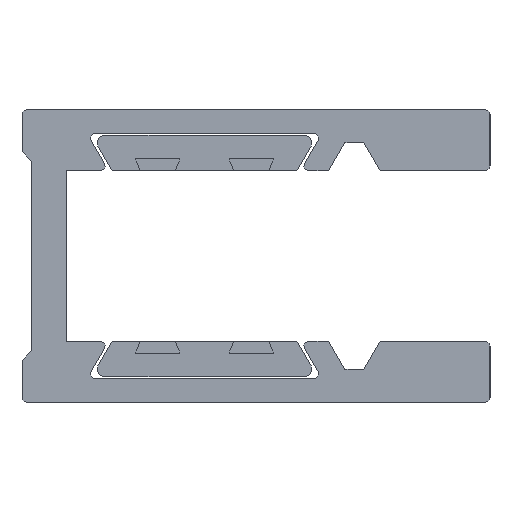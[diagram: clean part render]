
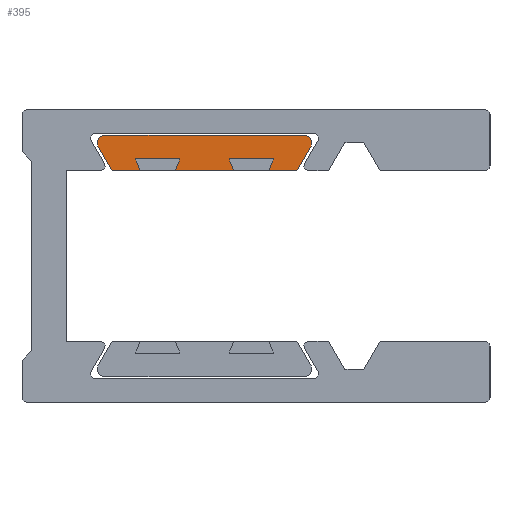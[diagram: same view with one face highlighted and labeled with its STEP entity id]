
A CAD part, left-side view. The second image highlights one B-rep face of the part: STEP entity #395.
In plain terms, the highlighted planar face has unit normal (-1, 0, 0).
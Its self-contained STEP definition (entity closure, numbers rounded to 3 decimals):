
#11 = LINE ( 'NONE', #3253, #1789 ) ;
#30 = ORIENTED_EDGE ( 'NONE', *, *, #3480, .F. ) ;
#38 = VECTOR ( 'NONE', #3076, 1000. ) ;
#107 = EDGE_CURVE ( 'NONE', #2776, #3458, #3658, .T. ) ;
#114 = AXIS2_PLACEMENT_3D ( 'NONE', #1687, #2047, #2899 ) ;
#127 = DIRECTION ( 'NONE',  ( 0., -0.371, 0.928 ) ) ;
#229 = ORIENTED_EDGE ( 'NONE', *, *, #3260, .F. ) ;
#255 = EDGE_CURVE ( 'NONE', #1691, #3326, #11, .T. ) ;
#385 = LINE ( 'NONE', #2786, #716 ) ;
#395 = ADVANCED_FACE ( 'NONE', ( #3732 ), #1978, .F. ) ;
#423 = CARTESIAN_POINT ( 'NONE',  ( -1000., 7.904, 4.85 ) ) ;
#488 = ORIENTED_EDGE ( 'NONE', *, *, #1572, .F. ) ;
#493 = DIRECTION ( 'NONE',  ( 0., 1., 0. ) ) ;
#509 = ORIENTED_EDGE ( 'NONE', *, *, #1342, .T. ) ;
#513 = VERTEX_POINT ( 'NONE', #1361 ) ;
#539 = CARTESIAN_POINT ( 'NONE',  ( -1000., 8.25, 3.65 ) ) ;
#615 = CARTESIAN_POINT ( 'NONE',  ( -1000., 9.45, 3.65 ) ) ;
#629 = CARTESIAN_POINT ( 'NONE',  ( -1000., 7.644, 4.7 ) ) ;
#648 = EDGE_CURVE ( 'NONE', #1941, #2476, #2787, .T. ) ;
#716 = VECTOR ( 'NONE', #2213, 1000. ) ;
#740 = ORIENTED_EDGE ( 'NONE', *, *, #1259, .F. ) ;
#752 = LINE ( 'NONE', #3397, #1712 ) ;
#786 = CARTESIAN_POINT ( 'NONE',  ( -1000., 8.25, 3.65 ) ) ;
#885 = CARTESIAN_POINT ( 'NONE',  ( -1000., 10.95, 3.65 ) ) ;
#898 = VECTOR ( 'NONE', #1487, 1000. ) ;
#1028 = LINE ( 'NONE', #1360, #1703 ) ;
#1048 = ORIENTED_EDGE ( 'NONE', *, *, #255, .F. ) ;
#1052 = LINE ( 'NONE', #2823, #3615 ) ;
#1104 = DIRECTION ( 'NONE',  ( 0., -1., 0. ) ) ;
#1256 = EDGE_CURVE ( 'NONE', #3326, #2558, #2811, .T. ) ;
#1259 = EDGE_CURVE ( 'NONE', #2558, #1652, #1028, .T. ) ;
#1289 = EDGE_CURVE ( 'NONE', #2476, #3268, #385, .T. ) ;
#1327 = VECTOR ( 'NONE', #3290, 1000. ) ;
#1342 = EDGE_CURVE ( 'NONE', #513, #2289, #2683, .T. ) ;
#1343 = CARTESIAN_POINT ( 'NONE',  ( -1000., 13.45, 3.65 ) ) ;
#1360 = CARTESIAN_POINT ( 'NONE',  ( -1000., 13.25, 4.15 ) ) ;
#1361 = CARTESIAN_POINT ( 'NONE',  ( -1000., 7.644, 4.7 ) ) ;
#1373 = CARTESIAN_POINT ( 'NONE',  ( -1000., 15.15, 4.15 ) ) ;
#1413 = DIRECTION ( 'NONE',  ( 0., 0., 1. ) ) ;
#1430 = LINE ( 'NONE', #2605, #2746 ) ;
#1444 = LINE ( 'NONE', #3761, #3782 ) ;
#1447 = CARTESIAN_POINT ( 'NONE',  ( -1000., 16.496, 5.15 ) ) ;
#1487 = DIRECTION ( 'NONE',  ( 0., 0.5, -0.866 ) ) ;
#1509 = VERTEX_POINT ( 'NONE', #2869 ) ;
#1543 = EDGE_CURVE ( 'NONE', #1509, #3640, #1052, .T. ) ;
#1572 = EDGE_CURVE ( 'NONE', #3640, #3458, #752, .T. ) ;
#1599 = CARTESIAN_POINT ( 'NONE',  ( -1000., 9.25, 4.15 ) ) ;
#1601 = DIRECTION ( 'NONE',  ( 0., -0.866, -0.5 ) ) ;
#1652 = VERTEX_POINT ( 'NONE', #1373 ) ;
#1687 = CARTESIAN_POINT ( 'NONE',  ( -1000., 0., 0. ) ) ;
#1691 = VERTEX_POINT ( 'NONE', #885 ) ;
#1703 = VECTOR ( 'NONE', #3669, 1000. ) ;
#1712 = VECTOR ( 'NONE', #1936, 1000. ) ;
#1765 = AXIS2_PLACEMENT_3D ( 'NONE', #2604, #1984, #1413 ) ;
#1789 = VECTOR ( 'NONE', #1796, 1000. ) ;
#1794 = EDGE_CURVE ( 'NONE', #513, #1941, #3579, .T. ) ;
#1796 = DIRECTION ( 'NONE',  ( 0., 1., 0. ) ) ;
#1825 = ORIENTED_EDGE ( 'NONE', *, *, #3644, .F. ) ;
#1936 = DIRECTION ( 'NONE',  ( 0., 0.5, 0.866 ) ) ;
#1941 = VERTEX_POINT ( 'NONE', #539 ) ;
#1947 = DIRECTION ( 'NONE',  ( -1., 0., 0. ) ) ;
#1966 = ORIENTED_EDGE ( 'NONE', *, *, #1289, .F. ) ;
#1978 = PLANE ( 'NONE',  #114 ) ;
#1984 = DIRECTION ( 'NONE',  ( -1., 0., 0. ) ) ;
#1989 = ORIENTED_EDGE ( 'NONE', *, *, #1256, .F. ) ;
#2010 = ORIENTED_EDGE ( 'NONE', *, *, #1543, .F. ) ;
#2047 = DIRECTION ( 'NONE',  ( 1., 0., 0. ) ) ;
#2096 = VECTOR ( 'NONE', #3432, 1000. ) ;
#2154 = CARTESIAN_POINT ( 'NONE',  ( -1000., 11.15, 4.15 ) ) ;
#2213 = DIRECTION ( 'NONE',  ( 0., -0.371, 0.928 ) ) ;
#2218 = CARTESIAN_POINT ( 'NONE',  ( -1000., 7.904, 5.15 ) ) ;
#2289 = VERTEX_POINT ( 'NONE', #2218 ) ;
#2331 = CARTESIAN_POINT ( 'NONE',  ( -1000., 13.45, 3.65 ) ) ;
#2387 = CARTESIAN_POINT ( 'NONE',  ( -1000., 13.25, 4.15 ) ) ;
#2440 = VERTEX_POINT ( 'NONE', #2154 ) ;
#2476 = VERTEX_POINT ( 'NONE', #615 ) ;
#2544 = ORIENTED_EDGE ( 'NONE', *, *, #1794, .F. ) ;
#2558 = VERTEX_POINT ( 'NONE', #2387 ) ;
#2604 = CARTESIAN_POINT ( 'NONE',  ( -1000., 16.496, 4.85 ) ) ;
#2605 = CARTESIAN_POINT ( 'NONE',  ( -1000., 11.15, 4.15 ) ) ;
#2651 = LINE ( 'NONE', #2953, #1327 ) ;
#2683 = CIRCLE ( 'NONE', #3181, 0.3 ) ;
#2746 = VECTOR ( 'NONE', #3487, 1000. ) ;
#2776 = VERTEX_POINT ( 'NONE', #1447 ) ;
#2786 = CARTESIAN_POINT ( 'NONE',  ( -1000., 9.45, 3.65 ) ) ;
#2787 = LINE ( 'NONE', #786, #2096 ) ;
#2811 = LINE ( 'NONE', #1343, #3000 ) ;
#2823 = CARTESIAN_POINT ( 'NONE',  ( -1000., 14.95, 3.65 ) ) ;
#2869 = CARTESIAN_POINT ( 'NONE',  ( -1000., 14.95, 3.65 ) ) ;
#2899 = DIRECTION ( 'NONE',  ( 0., 1., 0. ) ) ;
#2953 = CARTESIAN_POINT ( 'NONE',  ( -1000., 15.15, 4.15 ) ) ;
#3000 = VECTOR ( 'NONE', #127, 1000. ) ;
#3075 = ORIENTED_EDGE ( 'NONE', *, *, #3378, .F. ) ;
#3076 = DIRECTION ( 'NONE',  ( 0., 1., 0. ) ) ;
#3163 = EDGE_LOOP ( 'NONE', ( #229, #3682, #488, #2010, #30, #740, #1989, #1048, #3075, #1825, #1966, #3445, #2544, #509 ) ) ;
#3175 = CARTESIAN_POINT ( 'NONE',  ( -1000., 16.756, 4.7 ) ) ;
#3181 = AXIS2_PLACEMENT_3D ( 'NONE', #423, #1947, #1601 ) ;
#3253 = CARTESIAN_POINT ( 'NONE',  ( -1000., 10.95, 3.65 ) ) ;
#3260 = EDGE_CURVE ( 'NONE', #2776, #2289, #1444, .T. ) ;
#3268 = VERTEX_POINT ( 'NONE', #3448 ) ;
#3290 = DIRECTION ( 'NONE',  ( 0., -0.371, -0.928 ) ) ;
#3326 = VERTEX_POINT ( 'NONE', #2331 ) ;
#3378 = EDGE_CURVE ( 'NONE', #2440, #1691, #1430, .T. ) ;
#3397 = CARTESIAN_POINT ( 'NONE',  ( -1000., 16.15, 3.65 ) ) ;
#3404 = LINE ( 'NONE', #1599, #38 ) ;
#3432 = DIRECTION ( 'NONE',  ( 0., 1., 0. ) ) ;
#3445 = ORIENTED_EDGE ( 'NONE', *, *, #648, .F. ) ;
#3448 = CARTESIAN_POINT ( 'NONE',  ( -1000., 9.25, 4.15 ) ) ;
#3458 = VERTEX_POINT ( 'NONE', #3175 ) ;
#3480 = EDGE_CURVE ( 'NONE', #1652, #1509, #2651, .T. ) ;
#3487 = DIRECTION ( 'NONE',  ( 0., -0.371, -0.928 ) ) ;
#3579 = LINE ( 'NONE', #629, #898 ) ;
#3615 = VECTOR ( 'NONE', #493, 1000. ) ;
#3640 = VERTEX_POINT ( 'NONE', #3681 ) ;
#3644 = EDGE_CURVE ( 'NONE', #3268, #2440, #3404, .T. ) ;
#3658 = CIRCLE ( 'NONE', #1765, 0.3 ) ;
#3669 = DIRECTION ( 'NONE',  ( 0., 1., 0. ) ) ;
#3681 = CARTESIAN_POINT ( 'NONE',  ( -1000., 16.15, 3.65 ) ) ;
#3682 = ORIENTED_EDGE ( 'NONE', *, *, #107, .T. ) ;
#3732 = FACE_OUTER_BOUND ( 'NONE', #3163, .T. ) ;
#3761 = CARTESIAN_POINT ( 'NONE',  ( -1000., 16.496, 5.15 ) ) ;
#3782 = VECTOR ( 'NONE', #1104, 1000. ) ;
